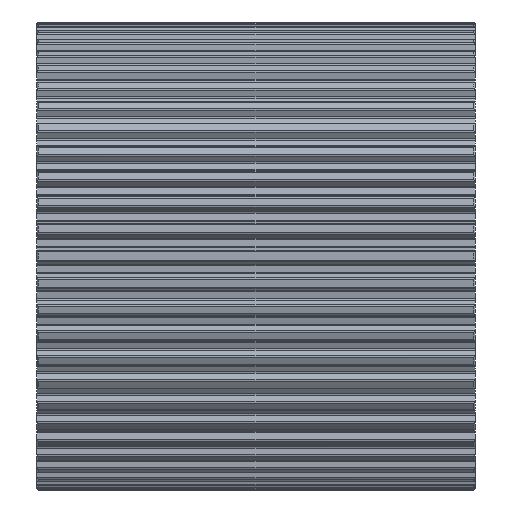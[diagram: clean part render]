
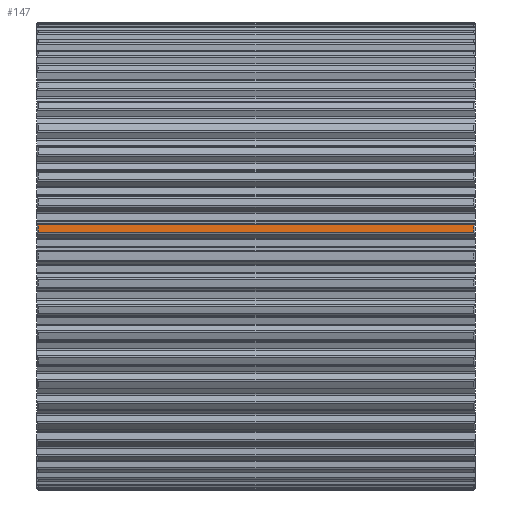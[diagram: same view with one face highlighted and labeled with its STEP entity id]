
A CAD part, front view. The second image highlights one B-rep face of the part: STEP entity #147.
In plain terms, the highlighted cylindrical face has radius 85.445 mm (diameter 170.89 mm), a partial arc.
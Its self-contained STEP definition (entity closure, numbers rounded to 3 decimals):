
#147=ADVANCED_FACE('',(#780),#781,.T.);
#780=FACE_OUTER_BOUND('',#1902,.T.);
#781=CYLINDRICAL_SURFACE('',#1903,85.445);
#1902=EDGE_LOOP('',(#3490,#3491,#3492,#3493));
#1903=AXIS2_PLACEMENT_3D('',#3494,#3495,#3496);
#3490=ORIENTED_EDGE('',*,*,#8255,.T.);
#3491=ORIENTED_EDGE('',*,*,#8256,.T.);
#3492=ORIENTED_EDGE('',*,*,#8257,.T.);
#3493=ORIENTED_EDGE('',*,*,#8258,.T.);
#3494=CARTESIAN_POINT('',(80.0,0.0,0.0));
#3495=DIRECTION('',(1.0,0.0,-0.0));
#3496=DIRECTION('',(0.0,0.116,0.993));
#8255=EDGE_CURVE('',#10266,#10275,#10277,.T.);
#8256=EDGE_CURVE('',#10275,#10278,#10279,.T.);
#8257=EDGE_CURVE('',#10278,#10280,#10281,.T.);
#8258=EDGE_CURVE('',#10280,#10266,#10282,.T.);
#10266=VERTEX_POINT('',#14998);
#10275=VERTEX_POINT('',#15034);
#10277=CIRCLE('',#15045,85.445);
#10278=VERTEX_POINT('',#15046);
#10279=LINE('',#15047,#15048);
#10280=VERTEX_POINT('',#15049);
#10281=CIRCLE('',#15050,85.445);
#10282=LINE('',#15051,#15052);
#14998=CARTESIAN_POINT('',(0.5,-84.682,11.393));
#15034=CARTESIAN_POINT('',(0.5,-85.027,8.444));
#15045=AXIS2_PLACEMENT_3D('',#20049,#20050,#20051);
#15046=CARTESIAN_POINT('',(159.5,-85.027,8.444));
#15047=CARTESIAN_POINT('',(80.0,-85.027,8.444));
#15048=VECTOR('',#20052,1.0);
#15049=CARTESIAN_POINT('',(159.5,-84.682,11.393));
#15050=AXIS2_PLACEMENT_3D('',#20053,#20054,#20055);
#15051=CARTESIAN_POINT('',(80.0,-84.682,11.393));
#15052=VECTOR('',#20056,1.0);
#20049=CARTESIAN_POINT('',(0.5,0.0,0.0));
#20050=DIRECTION('',(1.0,0.0,0.));
#20051=DIRECTION('',(0.,0.116,0.993));
#20052=DIRECTION('',(1.0,0.0,0.0));
#20053=CARTESIAN_POINT('',(159.5,0.0,0.0));
#20054=DIRECTION('',(-1.0,0.0,0.0));
#20055=DIRECTION('',(0.0,0.116,0.993));
#20056=DIRECTION('',(-1.0,0.0,0.0));
